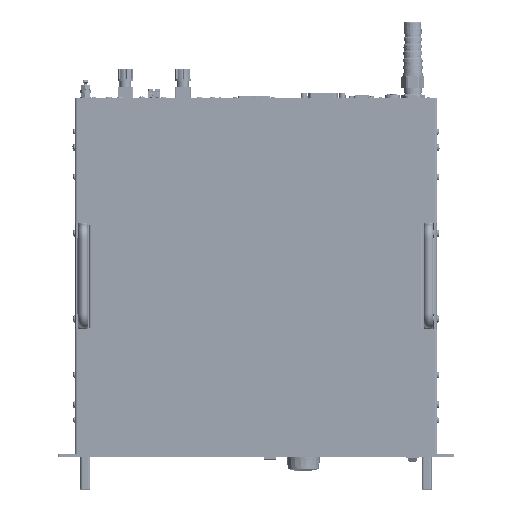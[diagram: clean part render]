
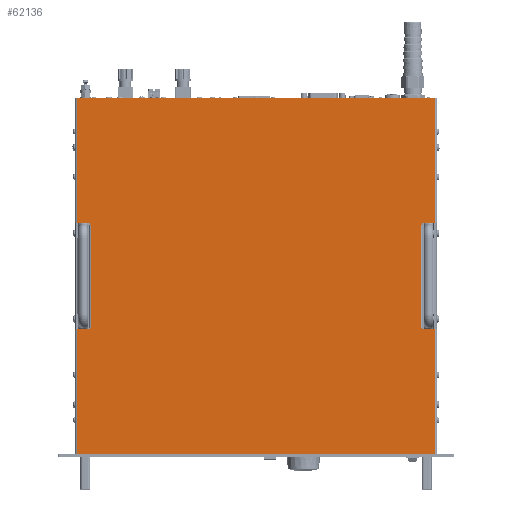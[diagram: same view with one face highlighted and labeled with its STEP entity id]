
A CAD part, top view. The second image highlights one B-rep face of the part: STEP entity #62136.
In plain terms, the highlighted planar face has unit normal (0, 0, 1).
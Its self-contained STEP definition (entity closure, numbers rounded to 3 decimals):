
#62136=ADVANCED_FACE('',(#127999),#128000,.F.);
#127999=FACE_OUTER_BOUND('',#229871,.T.);
#128000=PLANE('',#229872);
#229871=EDGE_LOOP('',(#404569,#404570,#404571,#404572,#404573,#404574,#404575,#404576,#404577,#404578,#404579,#404580,#404581,#404582,#404583,#404584,#404585,#404586,#404587,#404588));
#229872=AXIS2_PLACEMENT_3D('',#404589,#404590,#404591);
#404569=ORIENTED_EDGE('',*,*,#496525,.T.);
#404570=ORIENTED_EDGE('',*,*,#496545,.F.);
#404571=ORIENTED_EDGE('',*,*,#496546,.F.);
#404572=ORIENTED_EDGE('',*,*,#496189,.F.);
#404573=ORIENTED_EDGE('',*,*,#496511,.F.);
#404574=ORIENTED_EDGE('',*,*,#496174,.F.);
#404575=ORIENTED_EDGE('',*,*,#496500,.F.);
#404576=ORIENTED_EDGE('',*,*,#496547,.F.);
#404577=ORIENTED_EDGE('',*,*,#496543,.T.);
#404578=ORIENTED_EDGE('',*,*,#496538,.F.);
#404579=ORIENTED_EDGE('',*,*,#496535,.T.);
#404580=ORIENTED_EDGE('',*,*,#496548,.F.);
#404581=ORIENTED_EDGE('',*,*,#496476,.F.);
#404582=ORIENTED_EDGE('',*,*,#496164,.F.);
#404583=ORIENTED_EDGE('',*,*,#496465,.F.);
#404584=ORIENTED_EDGE('',*,*,#496184,.F.);
#404585=ORIENTED_EDGE('',*,*,#496549,.F.);
#404586=ORIENTED_EDGE('',*,*,#496550,.F.);
#404587=ORIENTED_EDGE('',*,*,#496522,.T.);
#404588=ORIENTED_EDGE('',*,*,#496530,.T.);
#404589=CARTESIAN_POINT('',(239.8,220.125,86.465));
#404590=DIRECTION('',(0.,0.,-1.0));
#404591=DIRECTION('',(1.0,0.,0.));
#496164=EDGE_CURVE('',#602124,#602126,#602127,.T.);
#496174=EDGE_CURVE('',#602142,#602144,#602145,.T.);
#496184=EDGE_CURVE('',#602160,#602162,#602163,.T.);
#496189=EDGE_CURVE('',#602169,#602171,#602172,.T.);
#496465=EDGE_CURVE('',#602162,#602124,#602602,.T.);
#496476=EDGE_CURVE('',#602126,#602617,#602618,.T.);
#496500=EDGE_CURVE('',#602650,#602142,#602652,.T.);
#496511=EDGE_CURVE('',#602144,#602169,#602667,.T.);
#496522=EDGE_CURVE('',#602678,#602681,#602683,.T.);
#496525=EDGE_CURVE('',#602688,#602685,#602689,.T.);
#496530=EDGE_CURVE('',#602681,#602688,#602694,.T.);
#496535=EDGE_CURVE('',#602700,#602698,#602701,.T.);
#496538=EDGE_CURVE('',#602700,#602704,#602705,.T.);
#496543=EDGE_CURVE('',#602710,#602704,#602712,.T.);
#496545=EDGE_CURVE('',#602714,#602685,#602715,.T.);
#496546=EDGE_CURVE('',#602171,#602714,#602716,.T.);
#496547=EDGE_CURVE('',#602710,#602650,#602717,.T.);
#496548=EDGE_CURVE('',#602617,#602698,#602718,.T.);
#496549=EDGE_CURVE('',#602719,#602160,#602720,.T.);
#496550=EDGE_CURVE('',#602678,#602719,#602721,.T.);
#602124=VERTEX_POINT('',#753014);
#602126=VERTEX_POINT('',#753016);
#602127=LINE('',#753017,#753018);
#602142=VERTEX_POINT('',#753036);
#602144=VERTEX_POINT('',#753038);
#602145=LINE('',#753039,#753040);
#602160=VERTEX_POINT('',#753058);
#602162=VERTEX_POINT('',#753060);
#602163=LINE('',#753061,#753062);
#602169=VERTEX_POINT('',#753069);
#602171=VERTEX_POINT('',#753071);
#602172=LINE('',#753072,#753073);
#602602=LINE('',#753624,#753625);
#602617=VERTEX_POINT('',#753645);
#602618=LINE('',#753646,#753647);
#602650=VERTEX_POINT('',#753693);
#602652=LINE('',#753696,#753697);
#602667=LINE('',#753717,#753718);
#602678=VERTEX_POINT('',#753733);
#602681=VERTEX_POINT('',#753737);
#602683=LINE('',#753739,#753740);
#602685=VERTEX_POINT('',#753742);
#602688=VERTEX_POINT('',#753746);
#602689=LINE('',#753747,#753748);
#602694=LINE('',#753753,#753754);
#602698=VERTEX_POINT('',#753759);
#602700=VERTEX_POINT('',#753762);
#602701=LINE('',#753763,#753764);
#602704=VERTEX_POINT('',#753767);
#602705=LINE('',#753768,#753769);
#602710=VERTEX_POINT('',#753774);
#602712=LINE('',#753777,#753778);
#602714=VERTEX_POINT('',#753780);
#602715=LINE('',#753781,#753782);
#602716=LINE('',#753783,#753784);
#602717=LINE('',#753785,#753786);
#602718=LINE('',#753787,#753788);
#602719=VERTEX_POINT('',#753789);
#602720=LINE('',#753790,#753791);
#602721=LINE('',#753792,#753793);
#753014=CARTESIAN_POINT('',(22.123,3.5,86.465));
#753016=CARTESIAN_POINT('',(22.123,155.5,86.465));
#753017=CARTESIAN_POINT('',(22.123,149.813,86.465));
#753018=VECTOR('',#852733,1.0);
#753036=CARTESIAN_POINT('',(22.123,284.75,86.465));
#753038=CARTESIAN_POINT('',(22.123,436.75,86.465));
#753039=CARTESIAN_POINT('',(22.123,290.438,86.465));
#753040=VECTOR('',#852749,1.0);
#753058=CARTESIAN_POINT('',(457.477,155.5,86.465));
#753060=CARTESIAN_POINT('',(457.477,3.5,86.465));
#753061=CARTESIAN_POINT('',(457.477,149.813,86.465));
#753062=VECTOR('',#852765,1.0);
#753069=CARTESIAN_POINT('',(457.477,436.75,86.465));
#753071=CARTESIAN_POINT('',(457.477,284.75,86.465));
#753072=CARTESIAN_POINT('',(457.477,290.438,86.465));
#753073=VECTOR('',#852773,1.0);
#753624=CARTESIAN_POINT('',(460.227,3.5,86.465));
#753625=VECTOR('',#853159,1.0);
#753645=CARTESIAN_POINT('',(37.373,155.5,86.465));
#753646=CARTESIAN_POINT('',(19.373,155.5,86.465));
#753647=VECTOR('',#853177,1.0);
#753693=CARTESIAN_POINT('',(37.373,284.75,86.465));
#753696=CARTESIAN_POINT('',(37.373,284.75,86.465));
#753697=VECTOR('',#853205,1.0);
#753717=CARTESIAN_POINT('',(19.373,436.75,86.465));
#753718=VECTOR('',#853223,1.0);
#753733=CARTESIAN_POINT('',(442.227,157.5,86.465));
#753737=CARTESIAN_POINT('',(440.477,157.5,86.465));
#753739=CARTESIAN_POINT('',(341.093,157.5,86.465));
#753740=VECTOR('',#853235,1.0);
#753742=CARTESIAN_POINT('',(442.227,282.75,86.465));
#753746=CARTESIAN_POINT('',(440.477,282.75,86.465));
#753747=CARTESIAN_POINT('',(341.093,282.75,86.465));
#753748=VECTOR('',#853237,1.0);
#753753=CARTESIAN_POINT('',(440.477,220.125,86.465));
#753754=VECTOR('',#853247,1.0);
#753759=CARTESIAN_POINT('',(37.373,157.5,86.465));
#753762=CARTESIAN_POINT('',(39.123,157.5,86.465));
#753763=CARTESIAN_POINT('',(138.507,157.5,86.465));
#753764=VECTOR('',#853250,1.0);
#753767=CARTESIAN_POINT('',(39.123,282.75,86.465));
#753768=CARTESIAN_POINT('',(39.123,220.125,86.465));
#753769=VECTOR('',#853254,1.0);
#753774=CARTESIAN_POINT('',(37.373,282.75,86.465));
#753777=CARTESIAN_POINT('',(138.507,282.75,86.465));
#753778=VECTOR('',#853262,1.0);
#753780=CARTESIAN_POINT('',(442.227,284.75,86.465));
#753781=CARTESIAN_POINT('',(442.227,284.75,86.465));
#753782=VECTOR('',#853263,1.0);
#753783=CARTESIAN_POINT('',(460.227,284.75,86.465));
#753784=VECTOR('',#853264,1.0);
#753785=CARTESIAN_POINT('',(37.373,282.75,86.465));
#753786=VECTOR('',#853265,1.0);
#753787=CARTESIAN_POINT('',(37.373,155.5,86.465));
#753788=VECTOR('',#853266,1.0);
#753789=CARTESIAN_POINT('',(442.227,155.5,86.465));
#753790=CARTESIAN_POINT('',(442.227,155.5,86.465));
#753791=VECTOR('',#853267,1.0);
#753792=CARTESIAN_POINT('',(442.227,157.5,86.465));
#753793=VECTOR('',#853268,1.0);
#852733=DIRECTION('',(0.0,1.0,0.));
#852749=DIRECTION('',(0.0,1.0,0.));
#852765=DIRECTION('',(0.0,-1.0,0.));
#852773=DIRECTION('',(0.0,-1.0,0.));
#853159=DIRECTION('',(-1.0,0.0,0.));
#853177=DIRECTION('',(1.0,0.0,0.0));
#853205=DIRECTION('',(-1.0,0.0,0.0));
#853223=DIRECTION('',(1.0,0.0,0.0));
#853235=DIRECTION('',(-1.0,0.0,0.0));
#853237=DIRECTION('',(1.0,0.0,0.0));
#853247=DIRECTION('',(0.0,1.0,0.));
#853250=DIRECTION('',(-1.0,0.0,0.0));
#853254=DIRECTION('',(0.0,1.0,0.));
#853262=DIRECTION('',(1.0,0.0,0.0));
#853263=DIRECTION('',(0.0,-1.0,0.));
#853264=DIRECTION('',(-1.0,0.0,0.0));
#853265=DIRECTION('',(0.0,1.0,0.));
#853266=DIRECTION('',(0.0,1.0,0.));
#853267=DIRECTION('',(1.0,0.0,0.0));
#853268=DIRECTION('',(0.0,-1.0,0.));
